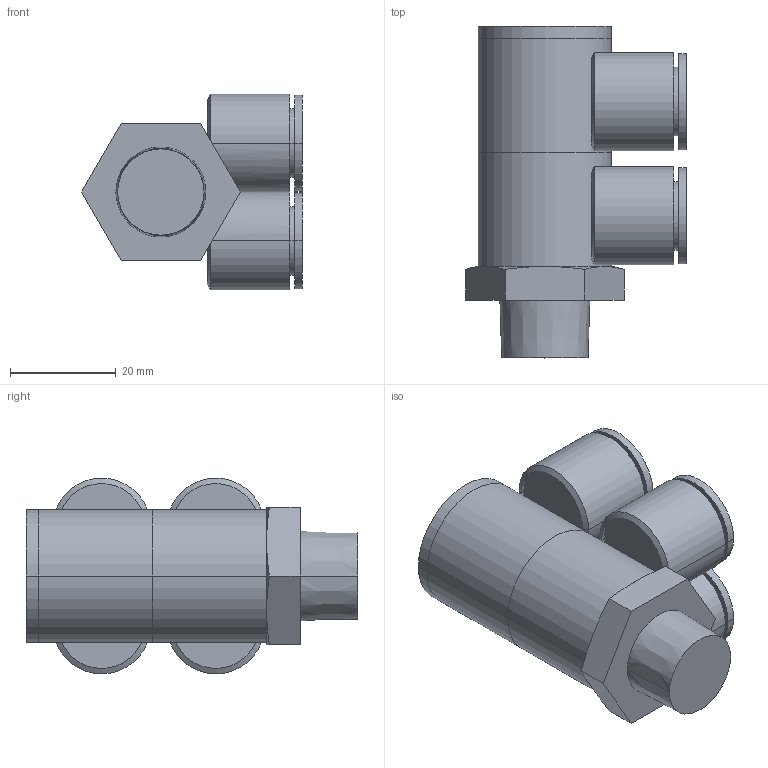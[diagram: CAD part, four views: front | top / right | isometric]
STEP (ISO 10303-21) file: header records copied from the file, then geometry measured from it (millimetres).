
FILE_DESCRIPTION (( 'STEP AP203' ), '1' );
FILE_NAME ('FZD12-03.STEP', '2020-05-11T14:50:09', ( '' ), ( '' ), 'SwSTEP 2.0', 'SolidWorks 2019', '' );
FILE_SCHEMA (( 'CONFIG_CONTROL_DESIGN' ));
Length unit declared in the file: millimetre
Products named in the file (1): FZD12-03
Bounding box: 41.81 x 62.8 x 37.05 mm (x, y, z)
Volume: 38371.8 mm3; surface area: 20996.2 mm2
Topology: 3 solids, 3 shells, 114 faces, 252 edges, 159 vertices
Faces by surface type: cylinder 60, plane 33, cone 21
Entity records: 3976 total; most frequent: CARTESIAN_POINT 1322, DIRECTION 577, ORIENTED_EDGE 504, EDGE_CURVE 252, AXIS2_PLACEMENT_3D 246, VERTEX_POINT 159, EDGE_LOOP 133, CIRCLE 131
